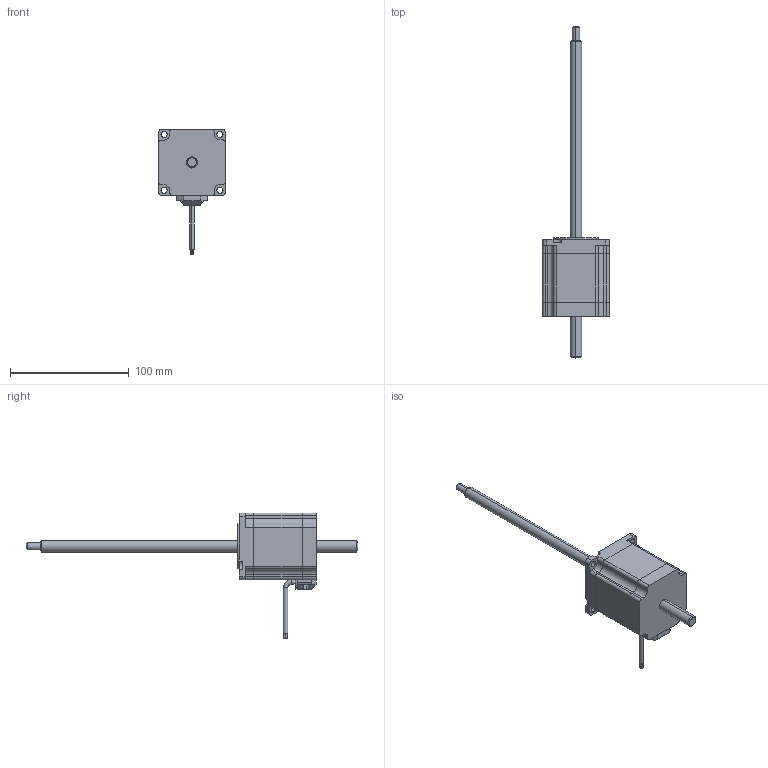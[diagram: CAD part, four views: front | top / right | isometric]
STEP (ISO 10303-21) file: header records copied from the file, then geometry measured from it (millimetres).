
FILE_DESCRIPTION (( 'STEP AP203' ), '1' );
FILE_NAME ('57N265-5.08-4-4-280-002.STEP', '2019-12-23T03:24:39', ( '' ), ( '' ), 'SwSTEP 2.0', 'SolidWorks 2017', '' );
FILE_SCHEMA (( 'CONFIG_CONTROL_DESIGN' ));
Length unit declared in the file: millimetre
Products named in the file (1): 57N265-5.08-4-4-280-002
Bounding box: 56.2 x 280 x 106.2 mm (x, y, z)
Volume: 203849.7 mm3; surface area: 32324.4 mm2
Topology: 2 solids, 2 shells, 202 faces, 545 edges, 359 vertices
Faces by surface type: cylinder 101, plane 93, cone 6, torus 2
Entity records: 6529 total; most frequent: CARTESIAN_POINT 1197, DIRECTION 1134, ORIENTED_EDGE 1090, EDGE_CURVE 545, AXIS2_PLACEMENT_3D 404, VERTEX_POINT 359, VECTOR 326, LINE 326
